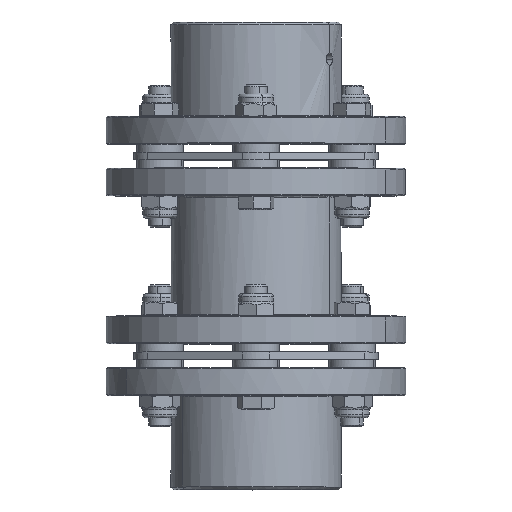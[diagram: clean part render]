
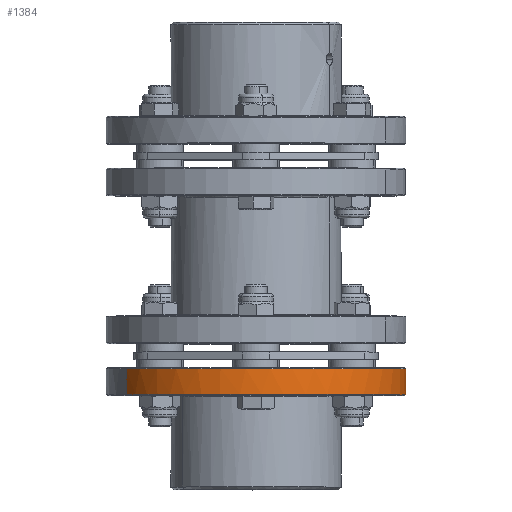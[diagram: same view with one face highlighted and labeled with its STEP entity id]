
A CAD part, top view. The second image highlights one B-rep face of the part: STEP entity #1384.
In plain terms, the highlighted free-form (B-spline) face has degree [3, 1] with [4, 2] control points.
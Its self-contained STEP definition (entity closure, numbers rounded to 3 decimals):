
#1384 = ADVANCED_FACE( '', ( #3874 ), #3875, .T. );
#3874 = FACE_OUTER_BOUND( '', #9528, .T. );
#3875 = ( BOUNDED_SURFACE(  )B_SPLINE_SURFACE( 3, 1, ( ( #9531, #9532 ), ( #9533, #9534 ), ( #9535, #9536 ), ( #9537, #9538 ) ), .UNSPECIFIED., .F., .F., .F. )B_SPLINE_SURFACE_WITH_KNOTS( ( 4, 4 ), ( 2, 2 ), ( 0., 1. ), ( 0., 1. ), .UNSPECIFIED. )GEOMETRIC_REPRESENTATION_ITEM(  )RATIONAL_B_SPLINE_SURFACE( ( ( 1., 1. ), ( 0.333, 0.333 ), ( 0.333, 0.333 ), ( 1., 1. ) ) )REPRESENTATION_ITEM( '' )SURFACE(  ) );
#9528 = EDGE_LOOP( '', ( #19773, #19774, #19775, #19776 ) );
#9531 = CARTESIAN_POINT( '', ( -70.148, -122.5, 40.5 ) );
#9532 = CARTESIAN_POINT( '', ( -70.148, -108.5, 40.5 ) );
#9533 = CARTESIAN_POINT( '', ( 10.852, -122.5, 180.796 ) );
#9534 = CARTESIAN_POINT( '', ( 10.852, -108.5, 180.796 ) );
#9535 = CARTESIAN_POINT( '', ( 151.148, -122.5, 99.796 ) );
#9536 = CARTESIAN_POINT( '', ( 151.148, -108.5, 99.796 ) );
#9537 = CARTESIAN_POINT( '', ( 70.148, -122.5, -40.5 ) );
#9538 = CARTESIAN_POINT( '', ( 70.148, -108.5, -40.5 ) );
#19773 = ORIENTED_EDGE( '', *, *, #24094, .F. );
#19774 = ORIENTED_EDGE( '', *, *, #24095, .F. );
#19775 = ORIENTED_EDGE( '', *, *, #24096, .F. );
#19776 = ORIENTED_EDGE( '', *, *, #24097, .F. );
#24094 = EDGE_CURVE( '', #27450, #27451, #27452, .T. );
#24095 = EDGE_CURVE( '', #27453, #27450, #27454, .T. );
#24096 = EDGE_CURVE( '', #27455, #27453, #27456, .T. );
#24097 = EDGE_CURVE( '', #27451, #27455, #27457, .T. );
#27450 = VERTEX_POINT( '', #39637 );
#27451 = VERTEX_POINT( '', #39638 );
#27452 = B_SPLINE_CURVE_WITH_KNOTS( '', 1, ( #39639, #39640 ), .UNSPECIFIED., .F., .F., ( 2, 2 ), ( 0., 1. ), .UNSPECIFIED. );
#27453 = VERTEX_POINT( '', #39641 );
#27454 = ( BOUNDED_CURVE(  )B_SPLINE_CURVE( 3, ( #39644, #39645, #39646, #39647 ), .UNSPECIFIED., .F., .F. )B_SPLINE_CURVE_WITH_KNOTS( ( 4, 4 ), ( 0., 1. ), .UNSPECIFIED. )CURVE(  )GEOMETRIC_REPRESENTATION_ITEM(  )RATIONAL_B_SPLINE_CURVE( ( 1., 0.333, 0.333, 1. ) )REPRESENTATION_ITEM( '' ) );
#27455 = VERTEX_POINT( '', #39653 );
#27456 = B_SPLINE_CURVE_WITH_KNOTS( '', 1, ( #39654, #39655 ), .UNSPECIFIED., .F., .F., ( 2, 2 ), ( 0., 1. ), .UNSPECIFIED. );
#27457 = ( BOUNDED_CURVE(  )B_SPLINE_CURVE( 3, ( #39658, #39659, #39660, #39661 ), .UNSPECIFIED., .F., .F. )B_SPLINE_CURVE_WITH_KNOTS( ( 4, 4 ), ( 0., 1. ), .UNSPECIFIED. )CURVE(  )GEOMETRIC_REPRESENTATION_ITEM(  )RATIONAL_B_SPLINE_CURVE( ( 1., 0.333, 0.333, 1. ) )REPRESENTATION_ITEM( '' ) );
#39637 = CARTESIAN_POINT( '', ( 70.148, -108.5, -40.5 ) );
#39638 = CARTESIAN_POINT( '', ( 70.148, -122.5, -40.5 ) );
#39639 = CARTESIAN_POINT( '', ( 70.148, -108.5, -40.5 ) );
#39640 = CARTESIAN_POINT( '', ( 70.148, -122.5, -40.5 ) );
#39641 = CARTESIAN_POINT( '', ( -70.148, -108.5, 40.5 ) );
#39644 = CARTESIAN_POINT( '', ( -70.148, -108.5, 40.5 ) );
#39645 = CARTESIAN_POINT( '', ( 10.852, -108.5, 180.796 ) );
#39646 = CARTESIAN_POINT( '', ( 151.148, -108.5, 99.796 ) );
#39647 = CARTESIAN_POINT( '', ( 70.148, -108.5, -40.5 ) );
#39653 = CARTESIAN_POINT( '', ( -70.148, -122.5, 40.5 ) );
#39654 = CARTESIAN_POINT( '', ( -70.148, -122.5, 40.5 ) );
#39655 = CARTESIAN_POINT( '', ( -70.148, -108.5, 40.5 ) );
#39658 = CARTESIAN_POINT( '', ( 70.148, -122.5, -40.5 ) );
#39659 = CARTESIAN_POINT( '', ( 151.148, -122.5, 99.796 ) );
#39660 = CARTESIAN_POINT( '', ( 10.852, -122.5, 180.796 ) );
#39661 = CARTESIAN_POINT( '', ( -70.148, -122.5, 40.5 ) );
